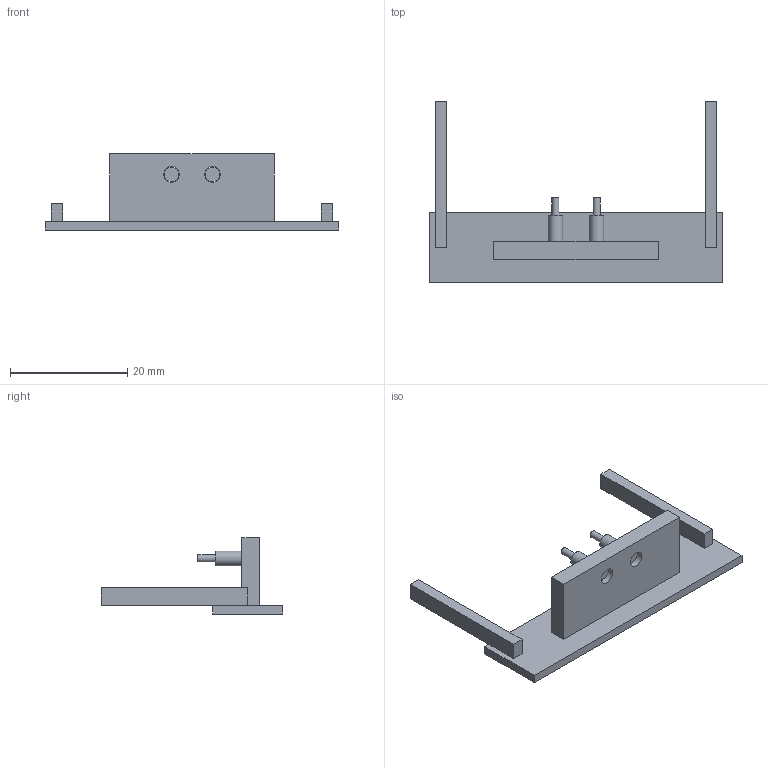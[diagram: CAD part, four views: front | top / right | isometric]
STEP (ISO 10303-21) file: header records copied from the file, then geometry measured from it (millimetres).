
FILE_DESCRIPTION(('Open CASCADE Model'),'2;1');
FILE_NAME('Open CASCADE Shape Model','2026-09-25T09:37:55',('Author'),( 'Open CASCADE'),'Open CASCADE STEP processor 7.9','Open CASCADE 7.9' ,'Unknown');
FILE_SCHEMA(('AUTOMOTIVE_DESIGN { 1 0 10303 214 1 1 1 1 }'));
Length unit declared in the file: millimetre
Products named in the file (4): Chess_mover_concept; 00_Dock_cradle_and_approach_rails; 01_Dock_spring_contact_GND; 02_Dock_spring_contact_5_V
Assembly tree (3 placements, depth 2):
  Chess_mover_concept
    00_Dock_cradle_and_approach_rails
    01_Dock_spring_contact_GND
    02_Dock_spring_contact_5_V
Bounding box: 50 x 31 x 13 mm (x, y, z)
Volume: 2202.2 mm3; surface area: 2747.3 mm2
Topology: 3 solids, 3 shells, 35 faces, 74 edges, 48 vertices
Faces by surface type: plane 29, cylinder 6
Full cylindrical faces by diameter (mm): 1.2 x2, 2.5 x2, 2.7 x2
Entity records: 1984 total; most frequent: DIRECTION 312, CARTESIAN_POINT 309, LINE 198, VECTOR 198, ORIENTED_EDGE 148, PCURVE 148, DEFINITIONAL_REPRESENTATION 148, EDGE_CURVE 74
